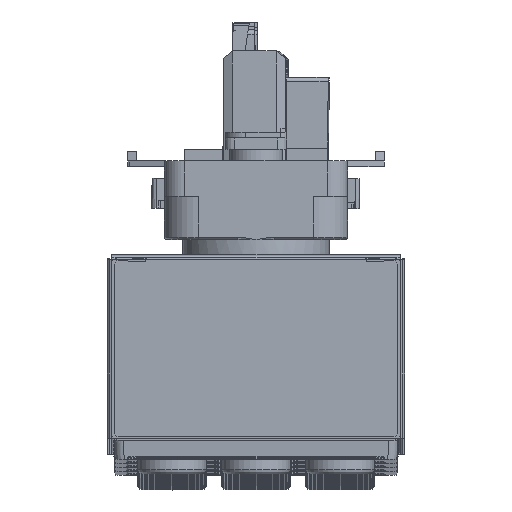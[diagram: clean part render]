
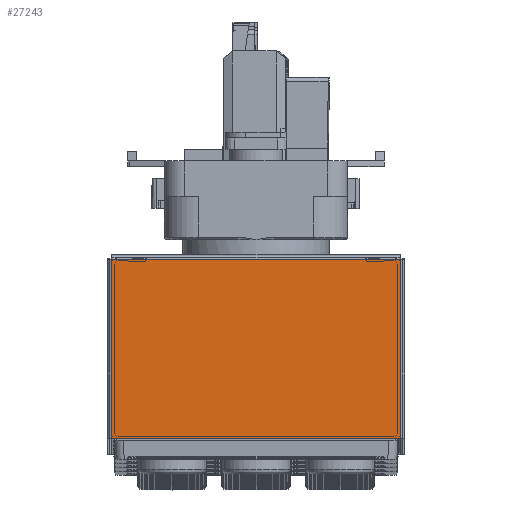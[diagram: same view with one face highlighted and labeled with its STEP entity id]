
A CAD part, top view. The second image highlights one B-rep face of the part: STEP entity #27243.
In plain terms, the highlighted planar face has unit normal (0, 0, 1).
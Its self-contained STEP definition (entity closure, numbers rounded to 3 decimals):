
#4471=FACE_OUTER_BOUND('',#6311,.T.);
#6311=EDGE_LOOP('',(#22501,#22502,#22503,#22504));
#8433=LINE('',#50571,#10242);
#8434=LINE('',#50573,#10243);
#8435=LINE('',#50575,#10244);
#8436=LINE('',#50576,#10245);
#10242=VECTOR('',#37413,10.);
#10243=VECTOR('',#37414,10.);
#10244=VECTOR('',#37415,10.);
#10245=VECTOR('',#37416,10.);
#12429=VERTEX_POINT('',#50569);
#12430=VERTEX_POINT('',#50570);
#12431=VERTEX_POINT('',#50572);
#12432=VERTEX_POINT('',#50574);
#15929=EDGE_CURVE('',#12429,#12430,#8433,.T.);
#15930=EDGE_CURVE('',#12430,#12431,#8434,.T.);
#15931=EDGE_CURVE('',#12432,#12431,#8435,.T.);
#15932=EDGE_CURVE('',#12432,#12429,#8436,.T.);
#22501=ORIENTED_EDGE('',*,*,#15929,.T.);
#22502=ORIENTED_EDGE('',*,*,#15930,.T.);
#22503=ORIENTED_EDGE('',*,*,#15931,.F.);
#22504=ORIENTED_EDGE('',*,*,#15932,.T.);
#25943=PLANE('',#30129);
#27243=ADVANCED_FACE('',(#4471),#25943,.T.);
#30129=AXIS2_PLACEMENT_3D('',#50568,#37411,#37412);
#37411=DIRECTION('center_axis',(0.,0.,
1.));
#37412=DIRECTION('ref_axis',(1.,0.,0.));
#37413=DIRECTION('',(-1.,0.,0.));
#37414=DIRECTION('',(0.,-1.,0.));
#37415=DIRECTION('',(-1.,0.,0.));
#37416=DIRECTION('',(0.,1.,0.));
#50568=CARTESIAN_POINT('Origin',(0.,20.419,
1000.5));
#50569=CARTESIAN_POINT('',(31.5,39.419,1000.5));
#50570=CARTESIAN_POINT('',(-31.5,39.419,1000.5));
#50571=CARTESIAN_POINT('',(15.75,39.419,1000.5));
#50572=CARTESIAN_POINT('',(-31.5,0.419,1000.5));
#50573=CARTESIAN_POINT('',(-31.5,29.919,1000.5));
#50574=CARTESIAN_POINT('',(31.5,0.419,1000.5));
#50575=CARTESIAN_POINT('',(32.5,0.419,1000.5));
#50576=CARTESIAN_POINT('',(31.5,10.419,1000.5));
